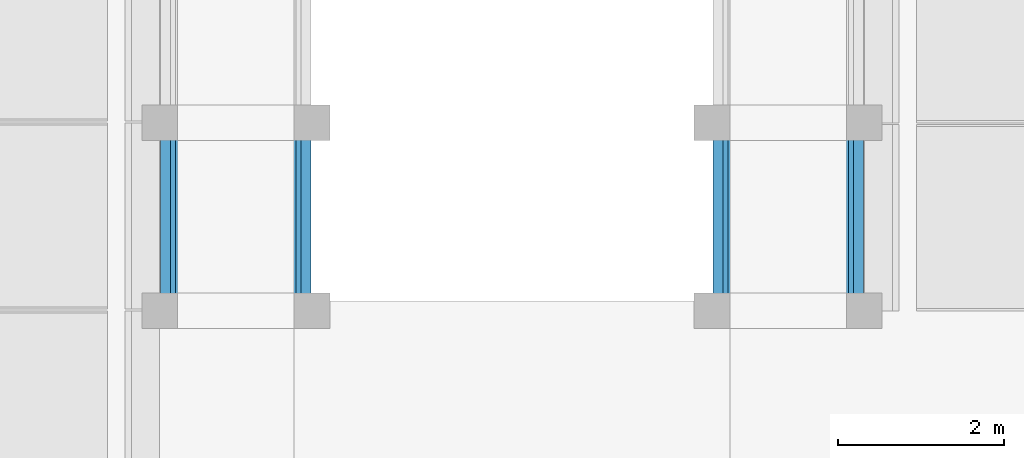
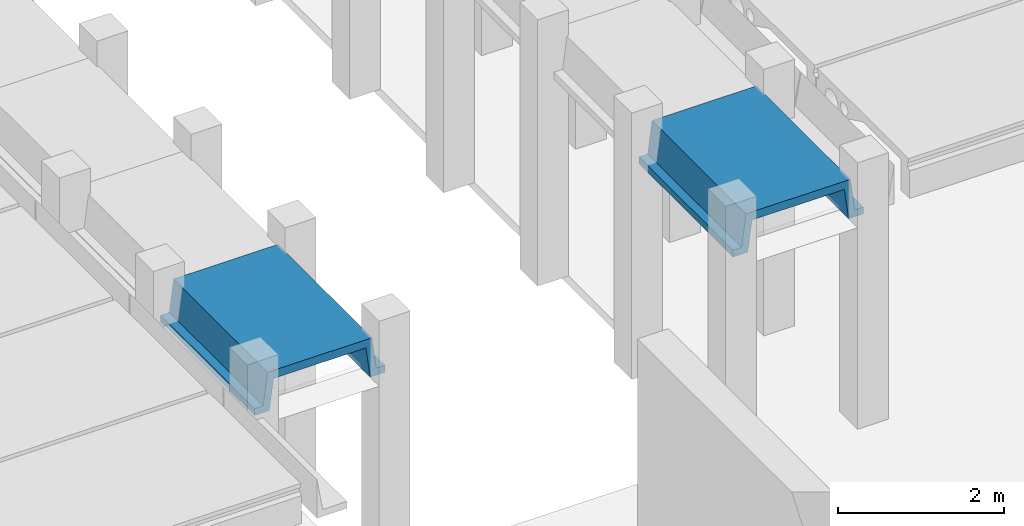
# One storey, part 7 of 21: 2 beams.
"""IFC2X3 building model written with IfcOpenShell, lengths in millimetres."""

from ifc_helpers import new_model, entity, si_unit, converted_unit, derived_unit, direction, frame, origin, place, context, subcontext, project, spatial, polyline, outline, extrude, material, type_object, element, save


model = new_model("IFC2X3")

# Units and contexts
model_context = context("Model", 3, precision=0.01, world=origin(), true_north=direction((6.12303176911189e-17, 1.0)))
body_context = subcontext(model_context, "Body", "Model", "MODEL_VIEW")
ifc_project = project(units=[si_unit("LENGTHUNIT", "METRE", prefix="MILLI"), si_unit("AREAUNIT", "SQUARE_METRE"), si_unit("VOLUMEUNIT", "CUBIC_METRE"), converted_unit("PLANEANGLEUNIT", "DEGREE", entity("IfcRatioMeasure", 0.0174532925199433), si_unit("PLANEANGLEUNIT", "RADIAN"), dimensions=[0, 0, 0, 0, 0, 0, 0]), si_unit("MASSUNIT", "GRAM", prefix="KILO"), derived_unit("MASSDENSITYUNIT", [(si_unit("MASSUNIT", "GRAM", prefix="KILO"), 1), (si_unit("LENGTHUNIT", "METRE"), -3)]), derived_unit("MOMENTOFINERTIAUNIT", [(si_unit("LENGTHUNIT", "METRE"), 4)]), si_unit("TIMEUNIT", "SECOND"), si_unit("FREQUENCYUNIT", "HERTZ"), si_unit("THERMODYNAMICTEMPERATUREUNIT", "DEGREE_CELSIUS"), derived_unit("THERMALTRANSMITTANCEUNIT", [(si_unit("MASSUNIT", "GRAM", prefix="KILO"), 1), (si_unit("THERMODYNAMICTEMPERATUREUNIT", "KELVIN"), -1), (si_unit("TIMEUNIT", "SECOND"), -3)]), derived_unit("VOLUMETRICFLOWRATEUNIT", [(si_unit("LENGTHUNIT", "METRE"), 3), (si_unit("TIMEUNIT", "SECOND"), -1)]), si_unit("ELECTRICCURRENTUNIT", "AMPERE"), si_unit("ELECTRICVOLTAGEUNIT", "VOLT"), si_unit("POWERUNIT", "WATT"), si_unit("FORCEUNIT", "NEWTON", prefix="KILO"), si_unit("ILLUMINANCEUNIT", "LUX"), si_unit("LUMINOUSFLUXUNIT", "LUMEN"), si_unit("LUMINOUSINTENSITYUNIT", "CANDELA"), derived_unit("USERDEFINED", [(si_unit("MASSUNIT", "GRAM", prefix="KILO"), -1), (si_unit("LENGTHUNIT", "METRE"), -2), (si_unit("TIMEUNIT", "SECOND"), 3), (si_unit("LUMINOUSFLUXUNIT", "LUMEN"), 1)]), derived_unit("LINEARVELOCITYUNIT", [(si_unit("LENGTHUNIT", "METRE"), 1), (si_unit("TIMEUNIT", "SECOND"), -1)]), si_unit("PRESSUREUNIT", "PASCAL"), derived_unit("USERDEFINED", [(si_unit("LENGTHUNIT", "METRE"), -2), (si_unit("MASSUNIT", "GRAM", prefix="KILO"), 1), (si_unit("TIMEUNIT", "SECOND"), -2)]), derived_unit("LINEARFORCEUNIT", [(si_unit("MASSUNIT", "GRAM", prefix="KILO"), 1), (si_unit("LENGTHUNIT", "METRE"), 1), (si_unit("TIMEUNIT", "SECOND"), -2), (si_unit("LENGTHUNIT", "METRE"), -1)]), derived_unit("PLANARFORCEUNIT", [(si_unit("MASSUNIT", "GRAM", prefix="KILO"), 1), (si_unit("LENGTHUNIT", "METRE"), 1), (si_unit("TIMEUNIT", "SECOND"), -2), (si_unit("LENGTHUNIT", "METRE"), -2)])], contexts=[model_context])

# Site, building, storey
site_placement = place(None, frame((10627.5135316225, 21939.0796949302, 0.0)))
site = spatial("IfcSite", under=ifc_project, at=site_placement, Name="Default", CompositionType="ELEMENT")
building_placement = place(site_placement, origin())
building = spatial("IfcBuilding", under=site, at=building_placement, CompositionType="ELEMENT")
storey_placement = place(building_placement, frame((0.0, 0.0, 7320.0)))
storey = spatial("IfcBuildingStorey", under=building, at=storey_placement, Name="R+2", CompositionType="ELEMENT", Elevation=7320.0)

# Beams
ifc_material = material(Name="Concrete, Precast Smooth, Light Grey")
beam_type = type_object("IfcBeamType", Name="Poutre petite:Poutre petite", PredefinedType="NOTDEFINED")
beam_1_placement = place(storey_placement, frame((23257.4864683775, -15159.0796949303, 3530.0), z_axis=(0.0, 0.0, 1.0), x_axis=(0.0, 1.0, 0.0)))
element("IfcBeam", 1, at=beam_1_placement, inside=storey, type_object=beam_type, material=ifc_material, Name="Poutre petite:Poutre petite", ObjectType="Poutre petite:Poutre petite", context=body_context, shape_type="SweptSolid", body=[
    extrude(outline(polyline([(103.333217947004, -905.013684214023), (203.333564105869, -905.013684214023), (203.333564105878, -700.013730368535), (-246.666782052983, -640.013684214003), (-246.666782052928, 640.013497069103), (203.333564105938, 700.0135432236), (203.333564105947, 905.014058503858), (103.333217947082, 905.014058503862), (103.333217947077, 785.013497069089), (-366.666782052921, 725.01349706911), (-366.666782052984, -725.013684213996), (103.333217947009, -785.013684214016), (103.333217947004, -905.013684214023)])), frame((0.0, -0.000187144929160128, -366.666782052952), z_axis=(1.0, 0.0, 0.0), x_axis=(0.0, 0.0, -1.0)), (0.0, 0.0, 1.0), 2260.0),
])
beam_2_placement = place(storey_placement, frame((29897.4864683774, -15159.0796949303, 3530.0), z_axis=(0.0, 0.0, 1.0), x_axis=(0.0, 1.0, 0.0)))
element("IfcBeam", 2, at=beam_2_placement, inside=storey, type_object=beam_type, material=ifc_material, Name="Poutre petite:Poutre petite", ObjectType="Poutre petite:Poutre petite", context=body_context, shape_type="SweptSolid", body=[
    extrude(outline(polyline([(103.333217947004, -905.014058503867), (203.333564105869, -905.014058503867), (203.333564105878, -700.013543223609), (-246.666782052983, -640.013497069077), (-246.666782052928, 640.013684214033), (203.333564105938, 700.013730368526), (203.333564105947, 905.01368421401), (103.333217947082, 905.013684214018), (103.333217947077, 785.013684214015), (-366.666782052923, 725.013684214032), (-366.666782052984, -725.01349706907), (103.333217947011, -785.013497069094), (103.333217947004, -905.014058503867)])), frame((0.0, 0.000187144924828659, -366.666782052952), z_axis=(1.0, 0.0, 0.0), x_axis=(0.0, 0.0, -1.0)), (0.0, 0.0, 1.0), 2260.0),
])

save(model, "model.ifc")
